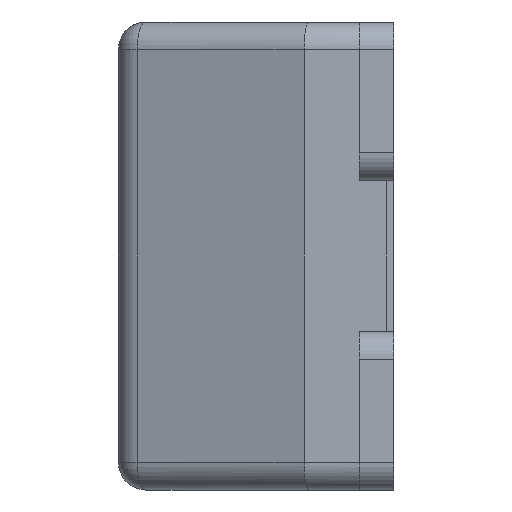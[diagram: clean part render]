
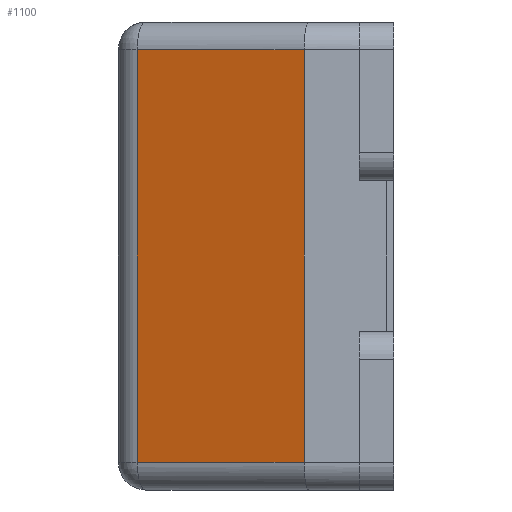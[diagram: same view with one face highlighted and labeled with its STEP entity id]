
A CAD part, left-side view. The second image highlights one B-rep face of the part: STEP entity #1100.
In plain terms, the highlighted planar face has unit normal (-0.949, 0.316, 0).
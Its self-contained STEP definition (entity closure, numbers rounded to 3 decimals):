
#103=PLANE($,#1203);
#147=FACE_OUTER_BOUND($,#213,.T.);
#213=EDGE_LOOP($,(#817,#818,#819,#820));
#284=LINE($,#1704,#379);
#297=LINE($,#1767,#392);
#298=LINE($,#1771,#393);
#299=LINE($,#1772,#394);
#379=VECTOR($,#1335,30.);
#392=VECTOR($,#1414,12.789);
#393=VECTOR($,#1419,12.789);
#394=VECTOR($,#1420,30.);
#488=VERTEX_POINT($,#1701);
#489=VERTEX_POINT($,#1703);
#506=VERTEX_POINT($,#1766);
#507=VERTEX_POINT($,#1770);
#593=EDGE_CURVE($,#488,#489,#284,.T.);
#625=EDGE_CURVE($,#489,#506,#297,.T.);
#627=EDGE_CURVE($,#507,#488,#298,.T.);
#628=EDGE_CURVE($,#507,#506,#299,.T.);
#817=ORIENTED_EDGE($,*,*,#593,.F.);
#818=ORIENTED_EDGE($,*,*,#627,.F.);
#819=ORIENTED_EDGE($,*,*,#628,.T.);
#820=ORIENTED_EDGE($,*,*,#625,.F.);
#1100=ADVANCED_FACE($,(#147),#103,.T.);
#1203=AXIS2_PLACEMENT_3D($,#1769,#1417,#1418);
#1335=DIRECTION($,(0.,0.,1.));
#1414=DIRECTION($,(-0.316,-0.949,0.));
#1417=DIRECTION('center_axis',(-0.949,0.316,0.));
#1418=DIRECTION('ref_axis',(0.,0.,1.));
#1419=DIRECTION($,(0.316,0.949,0.));
#1420=DIRECTION($,(0.,0.,1.));
#1701=CARTESIAN_POINT('',(-26.702,6.674,2.));
#1703=CARTESIAN_POINT('',(-26.702,6.674,32.));
#1704=CARTESIAN_POINT($,(-26.702,6.674,0.));
#1766=CARTESIAN_POINT('',(-30.746,-5.458,32.));
#1767=CARTESIAN_POINT($,(-27.56,4.101,32.));
#1769=CARTESIAN_POINT('Origin',(-30.746,-5.458,0.));
#1770=CARTESIAN_POINT('',(-30.746,-5.458,2.));
#1771=CARTESIAN_POINT($,(-27.56,4.101,2.));
#1772=CARTESIAN_POINT($,(-30.746,-5.458,0.));
